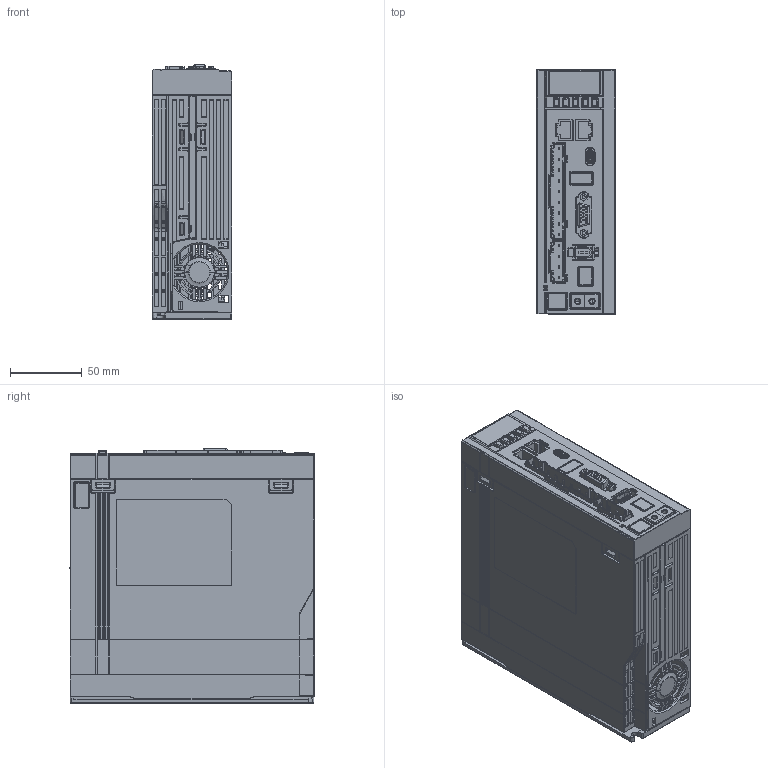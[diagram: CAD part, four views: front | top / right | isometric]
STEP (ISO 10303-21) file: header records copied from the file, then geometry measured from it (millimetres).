
FILE_DESCRIPTION((''),'2;1');
FILE_NAME('000-ZZ-SIZE-C-3D_ASM','2023-02-03T14:07:58',('panjiazhong'),(''),'CREO PARAMETRIC BY PTC INC, 2020354','CREO PARAMETRIC BY PTC INC, 2020354','');
FILE_SCHEMA(('AUTOMOTIVE_DESIGN { 1 0 10303 214 1 1 1 1 }'));
Products named in the file (25): C17010200103; SIZEC_PCB0916-4; LED-SD0805; 20200669_7; GONGLV-4PIN; C13011539; 00-QD-0916-V2_ASM; LAYOUT_SWITCH_22_0915A_LAYOU1; CON10-6363-12_2X15_05; CON2X16-RJ45-2_54-28_3-17_2-D0_; USB16-TYPEC-0_5MM-8_94X7_85-SMD; CON2X2-3_5-3_5-8_4X14-D1_4; DB15-90-100-30_8X21_9-D1; USB6-2_0-18_1X8_4-D0_8-BA-A; 00-KONGZHI-ASM-SIZE-C-0915_ASM; C02010100465-20220915; DIS13-100-300-23X10-D0_8-A; 00-XIANSHI-20220915_ASM; C19010100005; C18010100101; C18010100102; C18010100100; C23050200017; C19020200019; 000-ZZ-SIZE-C-3D_ASM
Assembly tree (24 placements, depth 3):
  000-ZZ-SIZE-C-3D_ASM
    C17010200103
    00-QD-0916-V2_ASM
      SIZEC_PCB0916-4
      LED-SD0805
      20200669_7
      GONGLV-4PIN
      C13011539
    00-KONGZHI-ASM-SIZE-C-0915_ASM
      LAYOUT_SWITCH_22_0915A_LAYOU1
      CON10-6363-12_2X15_05
      CON2X16-RJ45-2_54-28_3-17_2-D0_
      USB16-TYPEC-0_5MM-8_94X7_85-SMD
      CON2X2-3_5-3_5-8_4X14-D1_4
      DB15-90-100-30_8X21_9-D1
      USB6-2_0-18_1X8_4-D0_8-BA-A
    00-XIANSHI-20220915_ASM
      C02010100465-20220915
      DIS13-100-300-23X10-D0_8-A
    C19010100005
    C18010100101
    C18010100102
    C18010100100
    C23050200017
    C19020200019
Bounding box: 55.5 x 170.01 x 177.28 mm (x, y, z)
Volume: 235076.5 mm3; surface area: 250675.5 mm2
Topology: 31 solids, 31 shells, 5846 faces, 15124 edges, 9464 vertices
Faces by surface type: plane 3151, cylinder 1710, bspline 518, cone 197, sphere 165, torus 101, revolution 4
Entity records: 266857 total; most frequent: CARTESIAN_POINT 64561, ORIENTED_EDGE 30172, DIRECTION 26805, PRESENTATION_STYLE_ASSIGNMENT 16479, STYLED_ITEM 15123, CURVE_STYLE 15090, EDGE_CURVE 15086, VECTOR 10001
